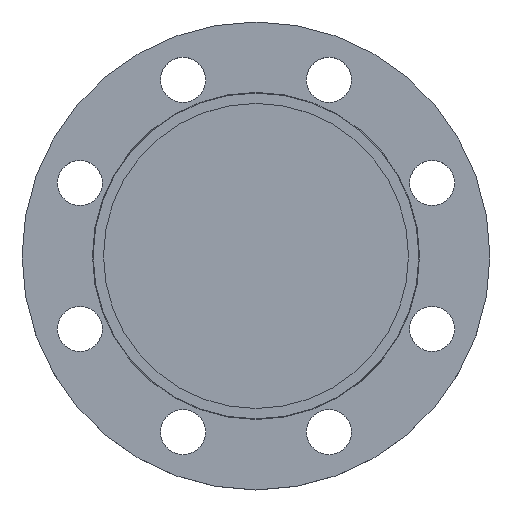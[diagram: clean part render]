
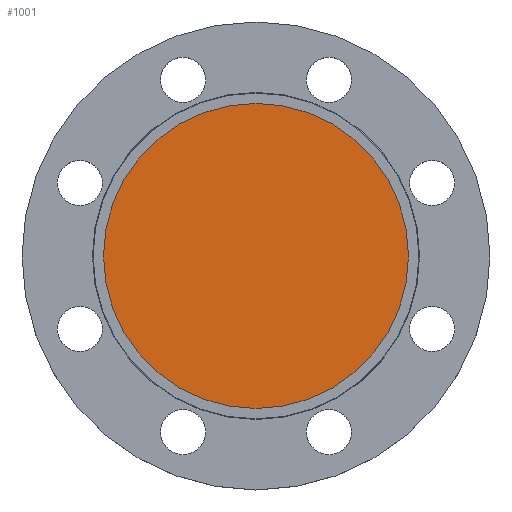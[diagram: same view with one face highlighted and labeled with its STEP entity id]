
A CAD part, top view. The second image highlights one B-rep face of the part: STEP entity #1001.
In plain terms, the highlighted planar face has unit normal (0, 0, 1).
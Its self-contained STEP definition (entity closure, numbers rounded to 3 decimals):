
#18 = EDGE_CURVE ( 'NONE', #903, #1033, #613, .T. ) ;
#19 = CARTESIAN_POINT ( 'NONE',  ( -88., 0., -4.5 ) ) ;
#27 = DIRECTION ( 'NONE',  ( 1., 0., 0. ) ) ;
#28 = DIRECTION ( 'NONE',  ( 0., 0., 1. ) ) ;
#29 = CARTESIAN_POINT ( 'NONE',  ( 88., 0., -4.5 ) ) ;
#32 = PLANE ( 'NONE',  #308 ) ;
#36 = FACE_OUTER_BOUND ( 'NONE', #753, .T. ) ;
#91 = CARTESIAN_POINT ( 'NONE',  ( 88., 0., -4.5 ) ) ;
#118 = CIRCLE ( 'NONE', #200, 88. ) ;
#177 = DIRECTION ( 'NONE',  ( -1., 0., 0. ) ) ;
#178 = DIRECTION ( 'NONE',  ( 0., 0., -1. ) ) ;
#179 = CARTESIAN_POINT ( 'NONE',  ( 0., 0., -4.5 ) ) ;
#200 = AXIS2_PLACEMENT_3D ( 'NONE', #179, #178, #177 ) ;
#308 = AXIS2_PLACEMENT_3D ( 'NONE', #29, #28, #27 ) ;
#613 = CIRCLE ( 'NONE', #704, 88. ) ;
#704 = AXIS2_PLACEMENT_3D ( 'NONE', #765, #766, #767 ) ;
#753 = EDGE_LOOP ( 'NONE', ( #1111, #1112 ) ) ;
#765 = CARTESIAN_POINT ( 'NONE',  ( 0., 0., -4.5 ) ) ;
#766 = DIRECTION ( 'NONE',  ( 0., 0., -1. ) ) ;
#767 = DIRECTION ( 'NONE',  ( -1., 0., 0. ) ) ;
#839 = EDGE_CURVE ( 'NONE', #1033, #903, #118, .T. ) ;
#903 = VERTEX_POINT ( 'NONE', #91 ) ;
#1001 = ADVANCED_FACE ( 'NONE', ( #36 ), #32, .T. ) ;
#1033 = VERTEX_POINT ( 'NONE', #19 ) ;
#1111 = ORIENTED_EDGE ( 'NONE', *, *, #839, .F. ) ;
#1112 = ORIENTED_EDGE ( 'NONE', *, *, #18, .F. ) ;
